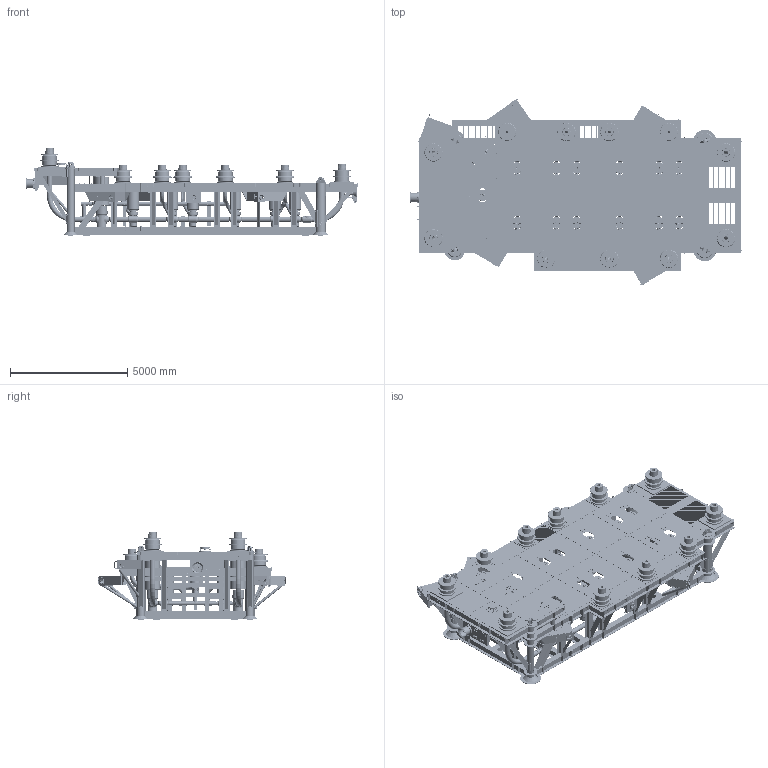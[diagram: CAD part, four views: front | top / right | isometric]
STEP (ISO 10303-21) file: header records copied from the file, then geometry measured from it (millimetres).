
FILE_DESCRIPTION(/* description */ (''),/* implementation_level */ '2;1');
FILE_NAME(/* name */ 'DU100132862_ASSEMBLY.stp',/* time_stamp */ '2013-06-04T14:23:31-05:00',/* author */ (''),/* organization */ (''),/* preprocessor_version */ 'ST-DEVELOPER v11',/* originating_system */ 'SIEMENS UGS NX 6.0',/* authorisation */ '');
FILE_SCHEMA (('AUTOMOTIVE_DESIGN { 1 0 10303 214 1 1 1 1 }'));
Products named in the file (1): zepeFDB5vbdm
Bounding box: 14165.45 x 8012.99 x 3719.07 mm (x, y, z)
Surface area: 835942892.4 mm2 (no closed solid volume)
Topology: 0 solids, 14951 shells, 18767 faces, 86473 edges, 75052 vertices
Faces by surface type: plane 9034, cylinder 5485, cone 1417, extrusion 1274, torus 765, bspline 726, sphere 66
Full cylindrical faces by diameter (mm): 3.454 x4, 5.118 x13, 5.123 x33, 6 x2, 6.2 x12, 6.219 x2, 6.35 x1674, 7.112 x12, 7.556 x2, 7.62 x1, 7.798 x24, 7.976 x6, 9.373 x6, 9.398 x2, 10.109 x16, 10.16 x7, 10.312 x12, 10.77 x4, 10.8 x1, 11.176 x8, 11.303 x4, 12 x4, 12.116 x2, 12.624 x2, 12.7 x42, 13.081 x6, 13.487 x8, 13.627 x6, 14.224 x8, 14.287 x8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
Entity records: 1511981 total; most frequent: CARTESIAN_POINT 871808, ORIENTED_EDGE 86754, EDGE_CURVE 79685, VERTEX_POINT 73937, B_SPLINE_CURVE_WITH_KNOTS 70919, DIRECTION 52203, EDGE_LOOP 28965, AXIS2_PLACEMENT_3D 24234
